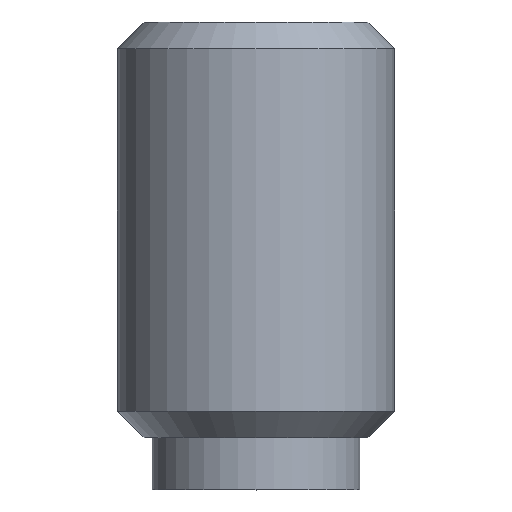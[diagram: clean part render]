
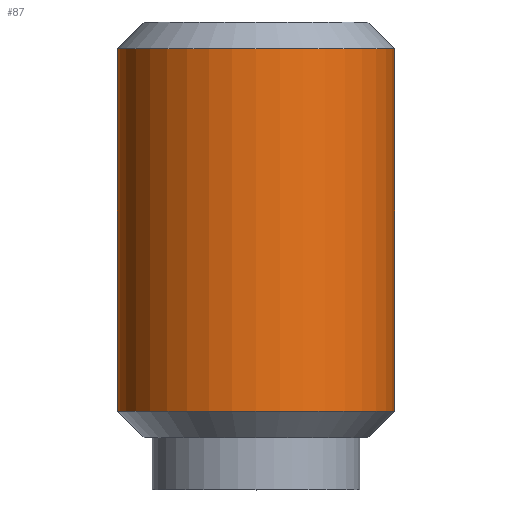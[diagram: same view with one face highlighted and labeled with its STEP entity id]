
A CAD part, top view. The second image highlights one B-rep face of the part: STEP entity #87.
In plain terms, the highlighted cylindrical face has radius 4 mm (diameter 8 mm), a full revolution.
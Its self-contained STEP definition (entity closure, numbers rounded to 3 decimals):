
#87 = ADVANCED_FACE( '', ( #118, #119 ), #120, .T. );
#118 = FACE_OUTER_BOUND( '', #152, .T. );
#119 = FACE_OUTER_BOUND( '', #153, .T. );
#120 = CYLINDRICAL_SURFACE( '', #154, 4. );
#152 = EDGE_LOOP( '', ( #238 ) );
#153 = EDGE_LOOP( '', ( #239 ) );
#154 = AXIS2_PLACEMENT_3D( '', #240, #241, #242 );
#238 = ORIENTED_EDGE( '', *, *, #270, .F. );
#239 = ORIENTED_EDGE( '', *, *, #271, .T. );
#240 = CARTESIAN_POINT( '', ( 0., 0., 0. ) );
#241 = DIRECTION( '', ( 0., 1., 0. ) );
#242 = DIRECTION( '', ( 0., 0., -1. ) );
#270 = EDGE_CURVE( '', #310, #310, #311, .T. );
#271 = EDGE_CURVE( '', #312, #312, #313, .T. );
#310 = VERTEX_POINT( '', #370 );
#311 = CIRCLE( '', #371, 4. );
#312 = VERTEX_POINT( '', #372 );
#313 = CIRCLE( '', #373, 4. );
#370 = CARTESIAN_POINT( '', ( 0., 2.267, -4. ) );
#371 = AXIS2_PLACEMENT_3D( '', #404, #405, #406 );
#372 = CARTESIAN_POINT( '', ( 0., 12.733, -4. ) );
#373 = AXIS2_PLACEMENT_3D( '', #407, #408, #409 );
#404 = CARTESIAN_POINT( '', ( 0., 2.267, 0. ) );
#405 = DIRECTION( '', ( 0., -1., 0. ) );
#406 = DIRECTION( '', ( 0., 0., -1. ) );
#407 = CARTESIAN_POINT( '', ( 0., 12.733, 0. ) );
#408 = DIRECTION( '', ( 0., -1., 0. ) );
#409 = DIRECTION( '', ( 0., 0., -1. ) );
